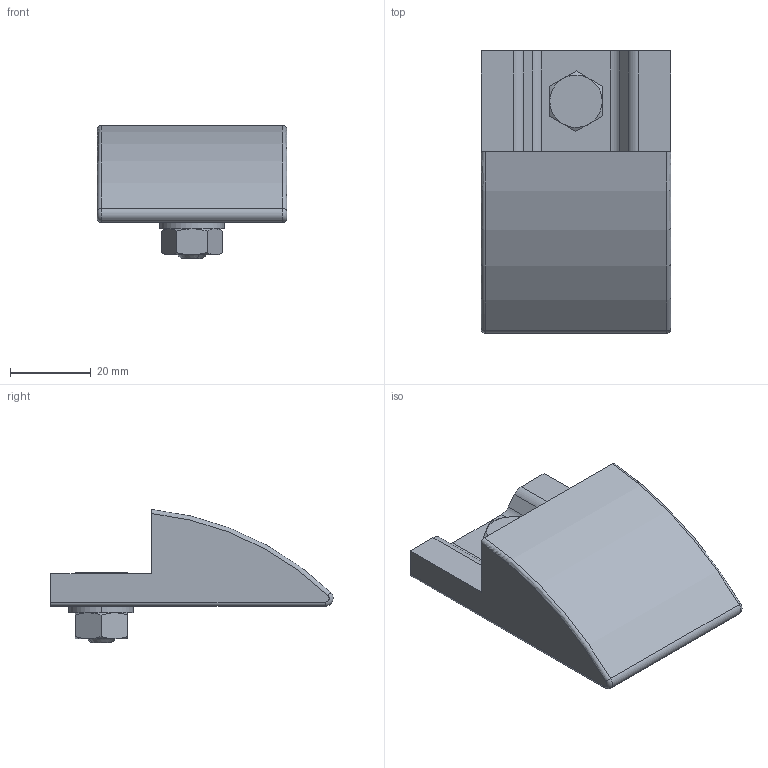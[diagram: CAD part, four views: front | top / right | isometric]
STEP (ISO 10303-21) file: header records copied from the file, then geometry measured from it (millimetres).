
FILE_DESCRIPTION(('CATIA V5 STEP Exchange'),'2;1');
FILE_NAME('X:\CODICI MOVEX\3D per clienti\Graham\19-06-2013\P36401_01.stp','2013-06-19T14:27:46+00:00',('none'),('none'),'CATIA Version 5 Release 21 SP 1 (IN-10)','CATIA V5 STEP AP203','none');
FILE_SCHEMA(('CONFIG_CONTROL_DESIGN'));
Length unit declared in the file: millimetre
Products named in the file (1): Product1
Assembly tree (4 placements, depth 2):
  Product1
    #58
    #799
    #1383
    #1931
Bounding box: 47 x 70 x 33 mm (x, y, z)
Volume: 43427.4 mm3; surface area: 11754.6 mm2
Topology: 4 solids, 4 shells, 64 faces, 154 edges, 100 vertices
Faces by surface type: plane 30, cylinder 20, cone 8, torus 6
Entity records: 2081 total; most frequent: CARTESIAN_POINT 546, ORIENTED_EDGE 308, DIRECTION 252, EDGE_CURVE 154, AXIS2_PLACEMENT_3D 120, VERTEX_POINT 100, EDGE_LOOP 72, VECTOR 70
